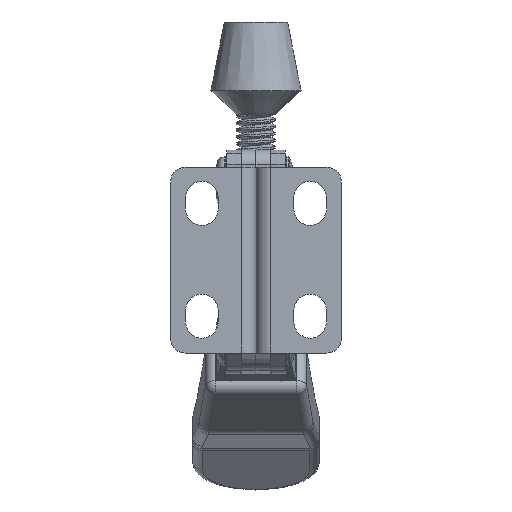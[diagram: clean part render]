
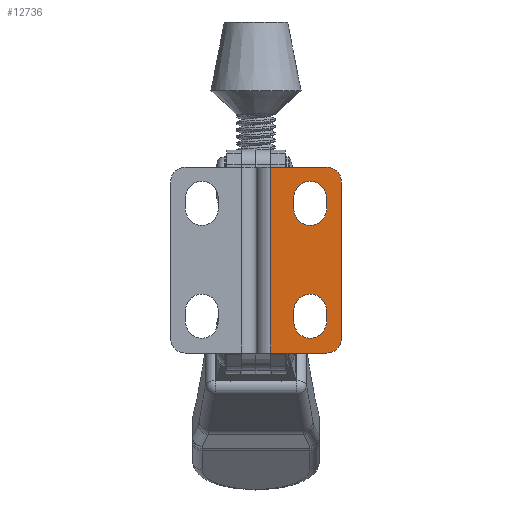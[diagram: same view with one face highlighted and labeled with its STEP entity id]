
A CAD part, front view. The second image highlights one B-rep face of the part: STEP entity #12736.
In plain terms, the highlighted planar face has unit normal (0, -1, 0).
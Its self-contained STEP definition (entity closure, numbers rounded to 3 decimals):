
#352=FACE_BOUND('',#1587,.T.);
#353=FACE_BOUND('',#1588,.T.);
#473=PLANE('',#13679);
#865=FACE_OUTER_BOUND('',#1586,.T.);
#1586=EDGE_LOOP('',(#9014,#9015,#9016,#9017,#9018,#9019));
#1587=EDGE_LOOP('',(#9020,#9021,#9022,#9023));
#1588=EDGE_LOOP('',(#9024,#9025,#9026,#9027));
#2336=CIRCLE('',#13680,3.);
#2337=CIRCLE('',#13681,3.);
#2338=CIRCLE('',#13682,3.35);
#2339=CIRCLE('',#13683,3.35);
#2340=CIRCLE('',#13684,3.35);
#2341=CIRCLE('',#13685,3.35);
#3146=LINE('',#34101,#4266);
#3161=LINE('',#34140,#4281);
#3169=LINE('',#34157,#4289);
#3176=LINE('',#34185,#4296);
#3177=LINE('',#34191,#4297);
#3178=LINE('',#34194,#4298);
#3179=LINE('',#34199,#4299);
#3180=LINE('',#34202,#4300);
#4266=VECTOR('',#14722,1000.);
#4281=VECTOR('',#14761,1000.);
#4289=VECTOR('',#14779,1000.);
#4296=VECTOR('',#14804,1000.);
#4297=VECTOR('',#14809,1000.);
#4298=VECTOR('',#14812,1000.);
#4299=VECTOR('',#14815,1000.);
#4300=VECTOR('',#14818,1000.);
#5447=VERTEX_POINT('',#34099);
#5448=VERTEX_POINT('',#34100);
#5459=VERTEX_POINT('',#34137);
#5460=VERTEX_POINT('',#34139);
#5475=VERTEX_POINT('',#34182);
#5476=VERTEX_POINT('',#34184);
#5477=VERTEX_POINT('',#34187);
#5478=VERTEX_POINT('',#34188);
#5479=VERTEX_POINT('',#34190);
#5480=VERTEX_POINT('',#34192);
#5481=VERTEX_POINT('',#34195);
#5482=VERTEX_POINT('',#34196);
#5483=VERTEX_POINT('',#34198);
#5484=VERTEX_POINT('',#34200);
#6805=EDGE_CURVE('',#5447,#5448,#3146,.T.);
#6824=EDGE_CURVE('',#5459,#5460,#3161,.T.);
#6834=EDGE_CURVE('',#5448,#5460,#3169,.T.);
#6847=EDGE_CURVE('',#5459,#5475,#2336,.T.);
#6848=EDGE_CURVE('',#5476,#5475,#3176,.T.);
#6849=EDGE_CURVE('',#5476,#5447,#2337,.T.);
#6850=EDGE_CURVE('',#5477,#5478,#2338,.T.);
#6851=EDGE_CURVE('',#5478,#5479,#3177,.T.);
#6852=EDGE_CURVE('',#5479,#5480,#2339,.T.);
#6853=EDGE_CURVE('',#5480,#5477,#3178,.T.);
#6854=EDGE_CURVE('',#5481,#5482,#2340,.T.);
#6855=EDGE_CURVE('',#5482,#5483,#3179,.T.);
#6856=EDGE_CURVE('',#5483,#5484,#2341,.T.);
#6857=EDGE_CURVE('',#5484,#5481,#3180,.T.);
#9014=ORIENTED_EDGE('',*,*,#6824,.F.);
#9015=ORIENTED_EDGE('',*,*,#6847,.T.);
#9016=ORIENTED_EDGE('',*,*,#6848,.F.);
#9017=ORIENTED_EDGE('',*,*,#6849,.T.);
#9018=ORIENTED_EDGE('',*,*,#6805,.T.);
#9019=ORIENTED_EDGE('',*,*,#6834,.T.);
#9020=ORIENTED_EDGE('',*,*,#6850,.T.);
#9021=ORIENTED_EDGE('',*,*,#6851,.T.);
#9022=ORIENTED_EDGE('',*,*,#6852,.T.);
#9023=ORIENTED_EDGE('',*,*,#6853,.T.);
#9024=ORIENTED_EDGE('',*,*,#6854,.T.);
#9025=ORIENTED_EDGE('',*,*,#6855,.T.);
#9026=ORIENTED_EDGE('',*,*,#6856,.T.);
#9027=ORIENTED_EDGE('',*,*,#6857,.T.);
#12736=ADVANCED_FACE('',(#865,#352,#353),#473,.F.);
#13679=AXIS2_PLACEMENT_3D('',#34181,#14800,#14801);
#13680=AXIS2_PLACEMENT_3D('',#34183,#14802,#14803);
#13681=AXIS2_PLACEMENT_3D('',#34186,#14805,#14806);
#13682=AXIS2_PLACEMENT_3D('',#34189,#14807,#14808);
#13683=AXIS2_PLACEMENT_3D('',#34193,#14810,#14811);
#13684=AXIS2_PLACEMENT_3D('',#34197,#14813,#14814);
#13685=AXIS2_PLACEMENT_3D('',#34201,#14816,#14817);
#14722=DIRECTION('',(-1.,0.,0.));
#14761=DIRECTION('',(-1.,0.,0.));
#14779=DIRECTION('',(0.,0.,-1.));
#14800=DIRECTION('center_axis',(0.,1.,0.));
#14801=DIRECTION('ref_axis',(0.,0.,1.));
#14802=DIRECTION('center_axis',(0.,-1.,0.));
#14803=DIRECTION('ref_axis',(0.,0.,1.));
#14804=DIRECTION('',(0.,0.,-1.));
#14805=DIRECTION('center_axis',(0.,-1.,0.));
#14806=DIRECTION('ref_axis',(0.,0.,1.));
#14807=DIRECTION('center_axis',(0.,1.,0.));
#14808=DIRECTION('ref_axis',(0.,0.,-1.));
#14809=DIRECTION('',(0.,0.,1.));
#14810=DIRECTION('center_axis',(0.,1.,0.));
#14811=DIRECTION('ref_axis',(0.,0.,-1.));
#14812=DIRECTION('',(0.,0.,-1.));
#14813=DIRECTION('center_axis',(0.,1.,0.));
#14814=DIRECTION('ref_axis',(0.,0.,1.));
#14815=DIRECTION('',(0.,0.,1.));
#14816=DIRECTION('center_axis',(0.,1.,0.));
#14817=DIRECTION('ref_axis',(0.,0.,1.));
#14818=DIRECTION('',(0.,0.,-1.));
#34099=CARTESIAN_POINT('',(14.5,0.,41.55));
#34100=CARTESIAN_POINT('',(3.,0.,41.55));
#34101=CARTESIAN_POINT('',(17.5,0.,41.55));
#34137=CARTESIAN_POINT('',(14.5,0.,3.55));
#34139=CARTESIAN_POINT('',(3.,0.,3.55));
#34140=CARTESIAN_POINT('',(17.5,0.,3.55));
#34157=CARTESIAN_POINT('',(3.,0.,45.1));
#34181=CARTESIAN_POINT('Origin',(3.,0.,45.1));
#34182=CARTESIAN_POINT('',(17.5,0.,6.55));
#34183=CARTESIAN_POINT('Origin',(14.5,0.,6.55));
#34184=CARTESIAN_POINT('',(17.5,0.,38.55));
#34185=CARTESIAN_POINT('',(17.5,0.,45.1));
#34186=CARTESIAN_POINT('Origin',(14.5,0.,38.55));
#34187=CARTESIAN_POINT('',(14.45,0.,33.05));
#34188=CARTESIAN_POINT('',(7.75,0.,33.05));
#34189=CARTESIAN_POINT('Origin',(11.1,0.,33.05));
#34190=CARTESIAN_POINT('',(7.75,0.,35.35));
#34191=CARTESIAN_POINT('',(7.75,0.,35.35));
#34192=CARTESIAN_POINT('',(14.45,0.,35.35));
#34193=CARTESIAN_POINT('Origin',(11.1,0.,35.35));
#34194=CARTESIAN_POINT('',(14.45,0.,35.35));
#34195=CARTESIAN_POINT('',(14.45,0.,9.95));
#34196=CARTESIAN_POINT('',(7.75,0.,9.95));
#34197=CARTESIAN_POINT('Origin',(11.1,0.,9.95));
#34198=CARTESIAN_POINT('',(7.75,0.,12.25));
#34199=CARTESIAN_POINT('',(7.75,0.,9.95));
#34200=CARTESIAN_POINT('',(14.45,0.,12.25));
#34201=CARTESIAN_POINT('Origin',(11.1,0.,12.25));
#34202=CARTESIAN_POINT('',(14.45,0.,9.95));
